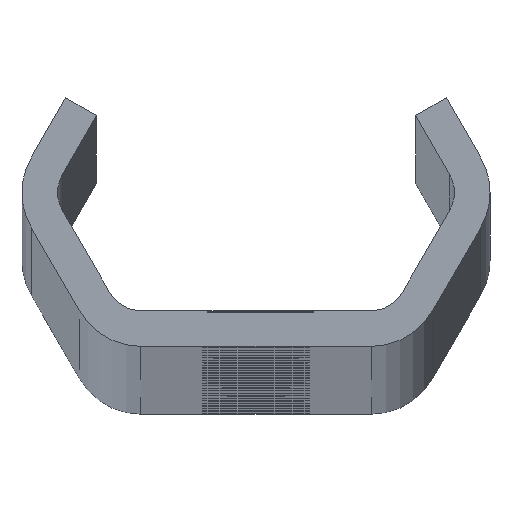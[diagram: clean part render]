
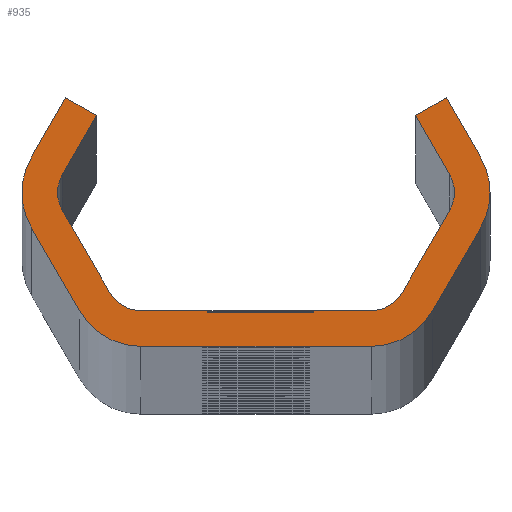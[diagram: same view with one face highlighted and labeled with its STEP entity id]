
A CAD part, top view. The second image highlights one B-rep face of the part: STEP entity #935.
In plain terms, the highlighted planar face has unit normal (0, 0, 1).
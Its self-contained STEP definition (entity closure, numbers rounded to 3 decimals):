
#935=ADVANCED_FACE('NONE',(#2621),#2622,.F.);
#2621=FACE_OUTER_BOUND('',#8574,.T.);
#2622=PLANE('',#8575);
#8574=EDGE_LOOP('',(#17524,#17525,#17526,#17527,#17528,#17529,#17530,#17531,#17532,#17533,#17534,#17535,#17536,#17537,#17538,#17539,#17540,#17541,#17542,#17543,#17544,#17545,#17546,#17547,#17548,#17549,#17550,#17551));
#8575=AXIS2_PLACEMENT_3D('',#17552,#17553,#17554);
#17524=ORIENTED_EDGE('',*,*,#23430,.F.);
#17525=ORIENTED_EDGE('',*,*,#23431,.T.);
#17526=ORIENTED_EDGE('',*,*,#22926,.T.);
#17527=ORIENTED_EDGE('',*,*,#23432,.T.);
#17528=ORIENTED_EDGE('',*,*,#23365,.T.);
#17529=ORIENTED_EDGE('',*,*,#23433,.T.);
#17530=ORIENTED_EDGE('',*,*,#22473,.T.);
#17531=ORIENTED_EDGE('',*,*,#23368,.T.);
#17532=ORIENTED_EDGE('',*,*,#23374,.T.);
#17533=ORIENTED_EDGE('',*,*,#23378,.T.);
#17534=ORIENTED_EDGE('',*,*,#23434,.T.);
#17535=ORIENTED_EDGE('',*,*,#22900,.T.);
#17536=ORIENTED_EDGE('',*,*,#23380,.T.);
#17537=ORIENTED_EDGE('',*,*,#23435,.T.);
#17538=ORIENTED_EDGE('',*,*,#23384,.T.);
#17539=ORIENTED_EDGE('',*,*,#23436,.T.);
#17540=ORIENTED_EDGE('',*,*,#22907,.T.);
#17541=ORIENTED_EDGE('',*,*,#23437,.T.);
#17542=ORIENTED_EDGE('',*,*,#22478,.T.);
#17543=ORIENTED_EDGE('',*,*,#22910,.T.);
#17544=ORIENTED_EDGE('',*,*,#22916,.T.);
#17545=ORIENTED_EDGE('',*,*,#22919,.T.);
#17546=ORIENTED_EDGE('',*,*,#22897,.T.);
#17547=ORIENTED_EDGE('',*,*,#23438,.T.);
#17548=ORIENTED_EDGE('',*,*,#22921,.T.);
#17549=ORIENTED_EDGE('',*,*,#23439,.T.);
#17550=ORIENTED_EDGE('',*,*,#22929,.T.);
#17551=ORIENTED_EDGE('',*,*,#23440,.T.);
#17552=CARTESIAN_POINT('',(0.0,0.0,3280.0));
#17553=DIRECTION('',(0.0,0.0,-1.0));
#17554=DIRECTION('',(0.0,-1.0,0.0));
#22473=EDGE_CURVE('NONE',#25029,#25033,#25035,.T.);
#22478=EDGE_CURVE('NONE',#25038,#25042,#25044,.T.);
#22897=EDGE_CURVE('NONE',#25798,#25796,#25799,.T.);
#22900=EDGE_CURVE('NONE',#25802,#25803,#25804,.T.);
#22907=EDGE_CURVE('NONE',#25816,#25814,#25817,.T.);
#22910=EDGE_CURVE('NONE',#25042,#25820,#25821,.T.);
#22916=EDGE_CURVE('NONE',#25820,#25828,#25830,.T.);
#22919=EDGE_CURVE('NONE',#25828,#25798,#25833,.T.);
#22921=EDGE_CURVE('NONE',#25835,#25836,#25837,.T.);
#22926=EDGE_CURVE('NONE',#25844,#25845,#25846,.T.);
#22929=EDGE_CURVE('NONE',#25851,#25849,#25852,.T.);
#23365=EDGE_CURVE('NONE',#26660,#26658,#26661,.T.);
#23368=EDGE_CURVE('NONE',#25033,#26664,#26665,.T.);
#23374=EDGE_CURVE('NONE',#26664,#26672,#26674,.T.);
#23378=EDGE_CURVE('NONE',#26672,#26678,#26680,.T.);
#23380=EDGE_CURVE('NONE',#25803,#26682,#26683,.T.);
#23384=EDGE_CURVE('NONE',#26688,#26689,#26690,.T.);
#23430=EDGE_CURVE('NONE',#26738,#26739,#26740,.T.);
#23431=EDGE_CURVE('NONE',#26738,#25844,#26741,.T.);
#23432=EDGE_CURVE('NONE',#25845,#26660,#26742,.T.);
#23433=EDGE_CURVE('NONE',#26658,#25029,#26743,.T.);
#23434=EDGE_CURVE('NONE',#26678,#25802,#26744,.T.);
#23435=EDGE_CURVE('NONE',#26682,#26688,#26745,.T.);
#23436=EDGE_CURVE('NONE',#26689,#25816,#26746,.T.);
#23437=EDGE_CURVE('NONE',#25814,#25038,#26747,.T.);
#23438=EDGE_CURVE('NONE',#25796,#25835,#26748,.T.);
#23439=EDGE_CURVE('NONE',#25836,#25851,#26749,.T.);
#23440=EDGE_CURVE('NONE',#25849,#26739,#26750,.T.);
#25029=VERTEX_POINT('',#28817);
#25033=VERTEX_POINT('NONE',#28822);
#25035=CIRCLE('',#28825,3.0);
#25038=VERTEX_POINT('',#28828);
#25042=VERTEX_POINT('NONE',#28833);
#25044=CIRCLE('',#28836,6.0);
#25796=VERTEX_POINT('NONE',#33344);
#25798=VERTEX_POINT('NONE',#33347);
#25799=CIRCLE('',#33348,3.0);
#25802=VERTEX_POINT('NONE',#33352);
#25803=VERTEX_POINT('NONE',#33353);
#25804=CIRCLE('',#33354,6.0);
#25814=VERTEX_POINT('NONE',#33367);
#25816=VERTEX_POINT('NONE',#33370);
#25817=LINE('',#33371,#33372);
#25820=VERTEX_POINT('NONE',#33376);
#25821=LINE('',#33377,#33378);
#25828=VERTEX_POINT('NONE',#33388);
#25830=LINE('',#33391,#33392);
#25833=LINE('',#33396,#33397);
#25835=VERTEX_POINT('NONE',#33399);
#25836=VERTEX_POINT('NONE',#33400);
#25837=LINE('',#33401,#33402);
#25844=VERTEX_POINT('NONE',#33412);
#25845=VERTEX_POINT('NONE',#33413);
#25846=LINE('',#33414,#33415);
#25849=VERTEX_POINT('NONE',#33419);
#25851=VERTEX_POINT('NONE',#33422);
#25852=LINE('',#33423,#33424);
#26658=VERTEX_POINT('NONE',#36382);
#26660=VERTEX_POINT('NONE',#36385);
#26661=LINE('',#36386,#36387);
#26664=VERTEX_POINT('NONE',#36391);
#26665=LINE('',#36392,#36393);
#26672=VERTEX_POINT('NONE',#36403);
#26674=LINE('',#36406,#36407);
#26678=VERTEX_POINT('NONE',#36412);
#26680=LINE('',#36415,#36416);
#26682=VERTEX_POINT('NONE',#36418);
#26683=LINE('',#36419,#36420);
#26688=VERTEX_POINT('NONE',#36427);
#26689=VERTEX_POINT('NONE',#36428);
#26690=LINE('',#36429,#36430);
#26738=VERTEX_POINT('NONE',#36481);
#26739=VERTEX_POINT('NONE',#36482);
#26740=LINE('',#36483,#36484);
#26741=LINE('',#36485,#36486);
#26742=CIRCLE('',#36487,3.0);
#26743=CIRCLE('',#36488,3.0);
#26744=CIRCLE('',#36489,6.0);
#26745=CIRCLE('',#36490,6.0);
#26746=CIRCLE('',#36491,6.0);
#26747=CIRCLE('',#36492,6.0);
#26748=CIRCLE('',#36493,3.0);
#26749=CIRCLE('',#36494,3.0);
#26750=LINE('',#36495,#36496);
#28817=CARTESIAN_POINT('',(-16.764,0.,3280.0));
#28822=CARTESIAN_POINT('',(-16.362,1.5,3280.0));
#28825=AXIS2_PLACEMENT_3D('',#43381,#43382,#43383);
#28828=CARTESIAN_POINT('',(19.764,0.,3280.0));
#28833=CARTESIAN_POINT('',(18.96,3.,3280.0));
#28836=AXIS2_PLACEMENT_3D('',#43389,#43390,#43391);
#33344=CARTESIAN_POINT('',(16.764,0.,3280.0));
#33347=CARTESIAN_POINT('',(16.362,1.5,3280.0));
#33348=AXIS2_PLACEMENT_3D('',#43808,#43809,#43810);
#33352=CARTESIAN_POINT('',(-19.764,0.,3280.0));
#33353=CARTESIAN_POINT('',(-18.96,-3.,3280.0));
#33354=AXIS2_PLACEMENT_3D('',#43812,#43813,#43814);
#33367=CARTESIAN_POINT('',(18.96,-3.,3280.0));
#33370=CARTESIAN_POINT('',(14.919,-10.,3280.0));
#33371=CARTESIAN_POINT('',(20.692,0.,3280.0));
#33372=VECTOR('',#43822,1000.0);
#33376=CARTESIAN_POINT('',(16.074,8.,3280.0));
#33377=CARTESIAN_POINT('',(16.074,8.,3280.0));
#33378=VECTOR('',#43824,1000.0);
#33388=CARTESIAN_POINT('',(13.475,6.5,3280.0));
#33391=CARTESIAN_POINT('',(13.475,6.5,3280.0));
#33392=VECTOR('',#43829,1000.0);
#33396=CARTESIAN_POINT('',(17.228,0.,3280.0));
#33397=VECTOR('',#43831,1000.0);
#33399=CARTESIAN_POINT('',(16.362,-1.5,3280.0));
#33400=CARTESIAN_POINT('',(12.321,-8.5,3280.0));
#33401=CARTESIAN_POINT('',(11.455,-10.0,3280.0));
#33402=VECTOR('',#43832,1000.0);
#33412=CARTESIAN_POINT('',(-4.063,-10.0,3280.0));
#33413=CARTESIAN_POINT('',(-9.723,-10.0,3280.0));
#33414=CARTESIAN_POINT('',(-11.455,-10.0,3280.0));
#33415=VECTOR('',#43836,1000.0);
#33419=CARTESIAN_POINT('',(-3.458,-10.0,3280.0));
#33422=CARTESIAN_POINT('',(9.723,-10.0,3280.0));
#33423=CARTESIAN_POINT('',(-11.455,-10.0,3280.0));
#33424=VECTOR('',#43839,1000.0);
#36382=CARTESIAN_POINT('',(-16.362,-1.5,3280.0));
#36385=CARTESIAN_POINT('',(-12.321,-8.5,3280.0));
#36386=CARTESIAN_POINT('',(-17.228,0.,3280.0));
#36387=VECTOR('',#44313,1000.0);
#36391=CARTESIAN_POINT('',(-13.475,6.5,3280.0));
#36392=CARTESIAN_POINT('',(-13.475,6.5,3280.0));
#36393=VECTOR('',#44315,1000.0);
#36403=CARTESIAN_POINT('',(-16.074,8.,3280.0));
#36406=CARTESIAN_POINT('',(-13.475,6.5,3280.0));
#36407=VECTOR('',#44320,1000.0);
#36412=CARTESIAN_POINT('',(-18.96,3.,3280.0));
#36415=CARTESIAN_POINT('',(-16.074,8.,3280.0));
#36416=VECTOR('',#44323,1000.0);
#36418=CARTESIAN_POINT('',(-14.919,-10.,3280.0));
#36419=CARTESIAN_POINT('',(-20.692,0.,3280.0));
#36420=VECTOR('',#44324,1000.0);
#36427=CARTESIAN_POINT('',(-9.723,-13.0,3280.0));
#36428=CARTESIAN_POINT('',(9.723,-13.0,3280.0));
#36429=CARTESIAN_POINT('',(-13.187,-13.0,3280.0));
#36430=VECTOR('',#44327,1000.0);
#36481=CARTESIAN_POINT('',(-4.063,-10.1,3280.0));
#36482=CARTESIAN_POINT('',(-3.458,-10.1,3280.0));
#36483=CARTESIAN_POINT('',(0.0,-10.1,3280.0));
#36484=VECTOR('',#44454,1000.0);
#36485=CARTESIAN_POINT('',(-4.063,0.,3280.0));
#36486=VECTOR('',#44455,1000.0);
#36487=AXIS2_PLACEMENT_3D('',#44456,#44457,#44458);
#36488=AXIS2_PLACEMENT_3D('',#44459,#44460,#44461);
#36489=AXIS2_PLACEMENT_3D('',#44462,#44463,#44464);
#36490=AXIS2_PLACEMENT_3D('',#44465,#44466,#44467);
#36491=AXIS2_PLACEMENT_3D('',#44468,#44469,#44470);
#36492=AXIS2_PLACEMENT_3D('',#44471,#44472,#44473);
#36493=AXIS2_PLACEMENT_3D('',#44474,#44475,#44476);
#36494=AXIS2_PLACEMENT_3D('',#44477,#44478,#44479);
#36495=CARTESIAN_POINT('',(-3.458,0.,3280.0));
#36496=VECTOR('',#44480,1000.0);
#43381=CARTESIAN_POINT('',(-13.764,0.,3280.0));
#43382=DIRECTION('',(0.0,0.0,-1.0));
#43383=DIRECTION('',(-1.0,0.0,0.0));
#43389=CARTESIAN_POINT('',(13.764,0.,3280.0));
#43390=DIRECTION('',(0.0,0.0,1.0));
#43391=DIRECTION('',(-1.0,0.0,0.0));
#43808=CARTESIAN_POINT('',(13.764,0.,3280.0));
#43809=DIRECTION('',(0.0,0.0,-1.0));
#43810=DIRECTION('',(-1.0,0.0,0.0));
#43812=CARTESIAN_POINT('',(-13.764,0.,3280.0));
#43813=DIRECTION('',(0.0,0.0,1.0));
#43814=DIRECTION('',(-1.0,0.0,0.0));
#43822=DIRECTION('',(0.5,0.866,-0.0));
#43824=DIRECTION('',(-0.5,0.866,-0.0));
#43829=DIRECTION('',(-0.866,-0.5,-0.0));
#43831=DIRECTION('',(0.5,-0.866,-0.0));
#43832=DIRECTION('',(-0.5,-0.866,-0.0));
#43836=DIRECTION('',(-1.0,0.,-0.0));
#43839=DIRECTION('',(-1.0,0.,-0.0));
#44313=DIRECTION('',(-0.5,0.866,-0.0));
#44315=DIRECTION('',(0.5,0.866,-0.0));
#44320=DIRECTION('',(-0.866,0.5,0.0));
#44323=DIRECTION('',(-0.5,-0.866,0.0));
#44324=DIRECTION('',(0.5,-0.866,0.0));
#44327=DIRECTION('',(1.0,0.0,0.0));
#44454=DIRECTION('',(1.0,0.0,0.0));
#44455=DIRECTION('',(0.,1.0,0.0));
#44456=CARTESIAN_POINT('',(-9.723,-7.0,3280.0));
#44457=DIRECTION('',(0.0,0.0,-1.0));
#44458=DIRECTION('',(-1.0,0.0,0.0));
#44459=CARTESIAN_POINT('',(-13.764,0.,3280.0));
#44460=DIRECTION('',(0.0,0.0,-1.0));
#44461=DIRECTION('',(-1.0,0.0,0.0));
#44462=CARTESIAN_POINT('',(-13.764,0.,3280.0));
#44463=DIRECTION('',(0.0,0.0,1.0));
#44464=DIRECTION('',(-1.0,0.0,0.0));
#44465=CARTESIAN_POINT('',(-9.723,-7.0,3280.0));
#44466=DIRECTION('',(0.0,0.0,1.0));
#44467=DIRECTION('',(-1.0,0.0,0.0));
#44468=CARTESIAN_POINT('',(9.723,-7.0,3280.0));
#44469=DIRECTION('',(0.0,0.0,1.0));
#44470=DIRECTION('',(-1.0,0.,0.0));
#44471=CARTESIAN_POINT('',(13.764,0.,3280.0));
#44472=DIRECTION('',(0.0,0.0,1.0));
#44473=DIRECTION('',(-1.0,0.0,0.0));
#44474=CARTESIAN_POINT('',(13.764,0.,3280.0));
#44475=DIRECTION('',(0.0,0.0,-1.0));
#44476=DIRECTION('',(-1.0,0.0,0.0));
#44477=CARTESIAN_POINT('',(9.723,-7.0,3280.0));
#44478=DIRECTION('',(0.0,0.0,-1.0));
#44479=DIRECTION('',(-1.0,0.0,0.0));
#44480=DIRECTION('',(0.,-1.0,0.0));
